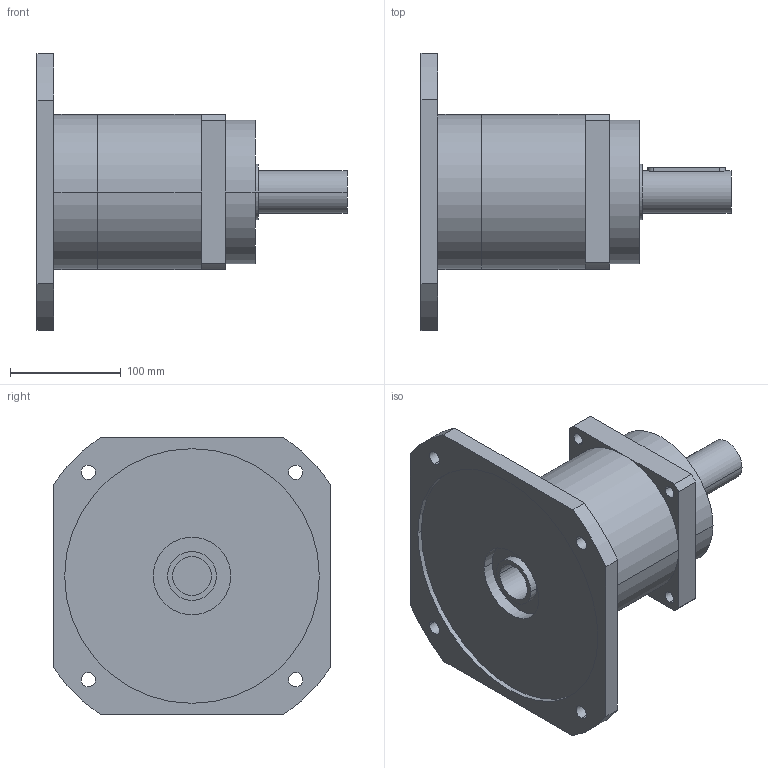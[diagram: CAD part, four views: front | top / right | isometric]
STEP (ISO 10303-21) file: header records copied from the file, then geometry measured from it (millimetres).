
FILE_DESCRIPTION(('CoCreate Modeling STEP Export'),'2;1');
FILE_NAME('GPR150_ig-3-4-5-7_38_B5_35_P07.stp','2014-08-19T16:43:14',(''),(''),'CoCreate Modeling STEP processor for AP214 (Solid Model)','CoCreate Modeling 16.00C 25-Feb-2009 (C) Parametric Technology GmbH','');
FILE_SCHEMA(('AUTOMOTIVE_DESIGN { 1 0 10303 214 1 1 1 1 }'));
Length unit declared in the file: millimetre
Products named in the file (2): GPR150_ig-3-4-5-7_38_B5_35_P07
Assembly tree (1 placements, depth 2):
  GPR150_ig-3-4-5-7_38_B5_35_P07
    GPR150_ig-3-4-5-7_38_B5_35_P07
Bounding box: 280 x 250 x 250 mm (x, y, z)
Volume: 3518919.1 mm3; surface area: 252392.3 mm2
Topology: 1 solids, 1 shells, 78 faces, 214 edges, 146 vertices
Faces by surface type: cylinder 46, plane 26, cone 6
Entity records: 2260 total; most frequent: ORIENTED_EDGE 424, CARTESIAN_POINT 421, DIRECTION 320, EDGE_CURVE 212, VERTEX_POINT 146, AXIS2_PLACEMENT_3D 117, EDGE_LOOP 104, VECTOR 86
